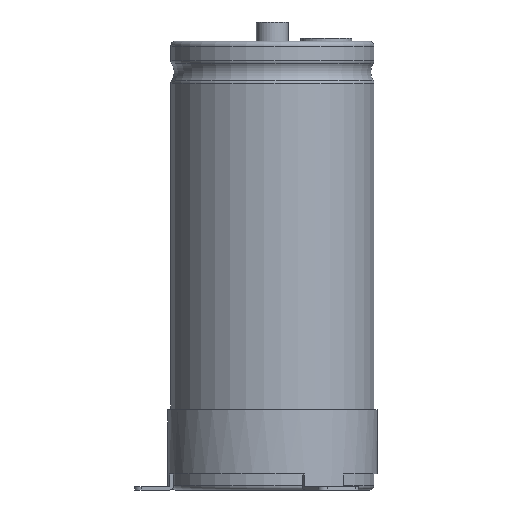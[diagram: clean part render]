
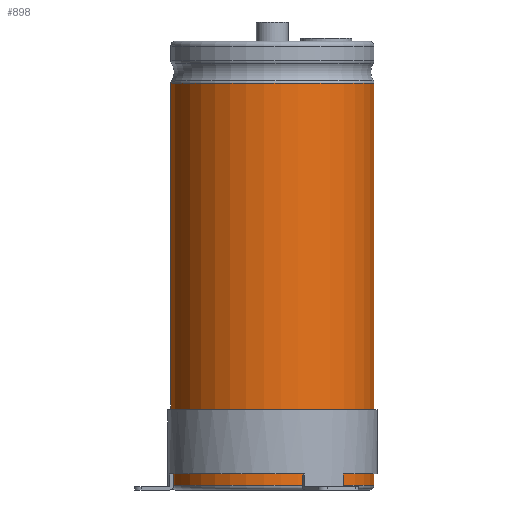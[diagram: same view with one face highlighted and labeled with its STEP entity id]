
A CAD part, front view. The second image highlights one B-rep face of the part: STEP entity #898.
In plain terms, the highlighted cylindrical face has radius 31.75 mm (diameter 63.5 mm), a partial arc.
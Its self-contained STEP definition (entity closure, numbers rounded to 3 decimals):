
#898=ADVANCED_FACE('',(#1199),#1037,.T.);
#1037=CYLINDRICAL_SURFACE('',#4842,31.75);
#1199=FACE_OUTER_BOUND('',#1450,.T.);
#1450=EDGE_LOOP('',(#2666,#2667,#2668,#2669));
#1741=CIRCLE('',#4839,31.75);
#1742=CIRCLE('',#4841,31.75);
#2666=ORIENTED_EDGE('',*,*,#3888,.T.);
#2667=ORIENTED_EDGE('',*,*,#3889,.T.);
#2668=ORIENTED_EDGE('',*,*,#3890,.F.);
#2669=ORIENTED_EDGE('',*,*,#3891,.F.);
#3337=VERTEX_POINT('',#7875);
#3339=VERTEX_POINT('',#7879);
#3340=VERTEX_POINT('',#7883);
#3341=VERTEX_POINT('',#7885);
#3888=EDGE_CURVE('',#3337,#3339,#1741,.T.);
#3889=EDGE_CURVE('',#3339,#3340,#4231,.T.);
#3890=EDGE_CURVE('',#3341,#3340,#1742,.T.);
#3891=EDGE_CURVE('',#3337,#3341,#4232,.T.);
#4231=LINE('',#7882,#4445);
#4232=LINE('',#7886,#4446);
#4445=VECTOR('',#5840,1.);
#4446=VECTOR('',#5843,1.);
#4839=AXIS2_PLACEMENT_3D('',#7880,#5836,#5837);
#4841=AXIS2_PLACEMENT_3D('',#7884,#5841,#5842);
#4842=AXIS2_PLACEMENT_3D('',#7887,#5844,#5845);
#5836=DIRECTION('',(0.,0.,-1.));
#5837=DIRECTION('',(0.,1.,0.));
#5840=DIRECTION('',(0.,0.,-1.));
#5841=DIRECTION('',(0.,0.,-1.));
#5842=DIRECTION('',(0.,1.,0.));
#5843=DIRECTION('',(0.,0.,-1.));
#5844=DIRECTION('',(0.,0.,-1.));
#5845=DIRECTION('',(0.,1.,0.));
#7875=CARTESIAN_POINT('',(4.007,31.496,126.9));
#7879=CARTESIAN_POINT('',(-4.007,31.496,126.9));
#7880=CARTESIAN_POINT('',(0.,0.,126.9));
#7882=CARTESIAN_POINT('',(-4.007,31.496,126.9));
#7883=CARTESIAN_POINT('',(-4.007,31.496,1.5));
#7884=CARTESIAN_POINT('',(0.,0.,1.5));
#7885=CARTESIAN_POINT('',(4.007,31.496,1.5));
#7886=CARTESIAN_POINT('',(4.007,31.496,126.9));
#7887=CARTESIAN_POINT('',(0.,0.,0.));
